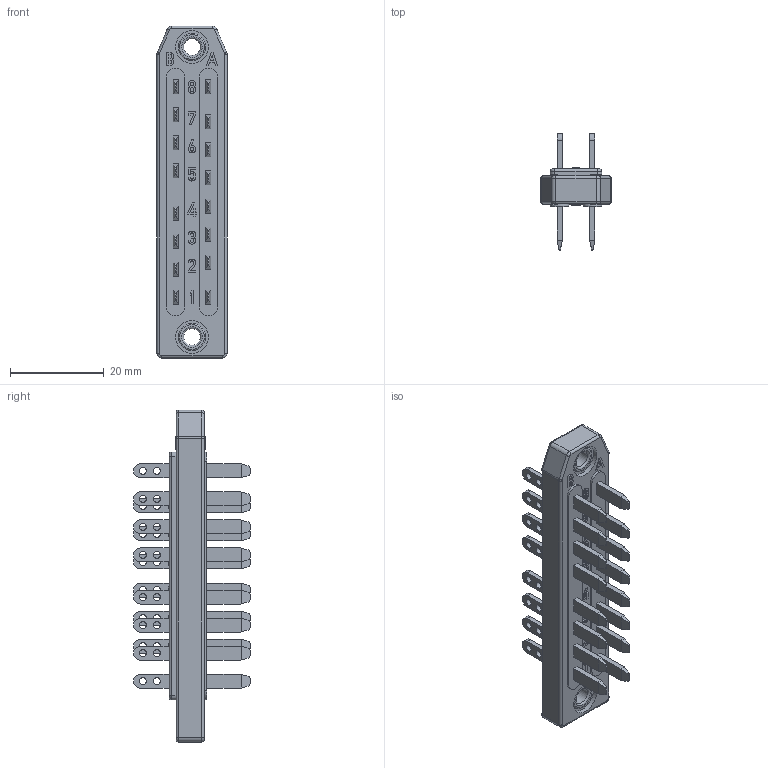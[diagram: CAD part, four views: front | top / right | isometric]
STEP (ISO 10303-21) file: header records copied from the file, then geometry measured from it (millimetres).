
FILE_DESCRIPTION(('Contato Macho DIN41622 16P Term Solda'),'2;1');
FILE_NAME('E:\WorkFolder\Bibl\3DWeb\kp_pc16m_step.stp','2022-07-12T15:59:38',('DIE'),('KAP Componentes Eletricos Ltda.'),'Autodesk Inventor 2011','Autodesk Inventor 2011','Direitos reservados. Proibido reproducao, cedencia ou revelacao de conteudo a terceiros, salvo com autorizacao.');
FILE_SCHEMA(('AUTOMOTIVE_DESIGN { 1 0 10303 214 1 1 1 1 }'));
Length unit declared in the file: millimetre
Products named in the file (1): Part19
Bounding box: 15 x 25 x 71 mm (x, y, z)
Volume: 7847.3 mm3; surface area: 5894.1 mm2
Topology: 1 solids, 4 shells, 635 faces, 1598 edges, 1052 vertices
Faces by surface type: plane 458, cylinder 151, torus 18, bspline 8
Full cylindrical faces by diameter (mm): 0.8 x6, 1.5 x32, 3.6 x2, 4.1 x2, 4.5 x2, 4.8 x1, 6 x2, 7 x4
Entity records: 19643 total; most frequent: CARTESIAN_POINT 3517, DIRECTION 3123, ORIENTED_EDGE 3074, EDGE_CURVE 1537, VECTOR 1207, LINE 1207, VERTEX_POINT 1052, AXIS2_PLACEMENT_3D 958
